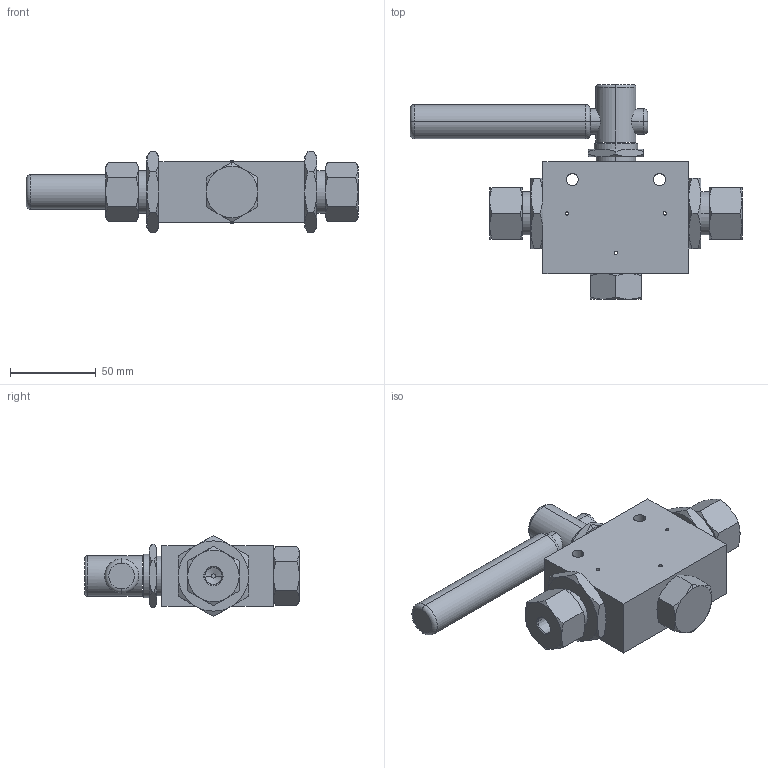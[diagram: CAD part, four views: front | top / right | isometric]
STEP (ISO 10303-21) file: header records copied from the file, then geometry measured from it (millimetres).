
FILE_DESCRIPTION (( 'STEP AP203' ), '1' );
FILE_NAME ('BVN05S02-2-90.STEP', '2022-04-07T10:05:38', ( '' ), ( '' ), 'SwSTEP 2.0', 'SolidWorks 2020', '' );
FILE_SCHEMA (( 'CONFIG_CONTROL_DESIGN' ));
Length unit declared in the file: millimetre
Products named in the file (1): BVN05S02-2-90
Bounding box: 193.5 x 125 x 47.34 mm (x, y, z)
Volume: 310044.5 mm3; surface area: 46784.3 mm2
Topology: 1 solids, 1 shells, 198 faces, 442 edges, 260 vertices
Faces by surface type: cone 90, plane 64, cylinder 36, torus 8
Entity records: 6371 total; most frequent: CARTESIAN_POINT 2057, ORIENTED_EDGE 884, DIRECTION 868, EDGE_CURVE 442, AXIS2_PLACEMENT_3D 379, VERTEX_POINT 260, EDGE_LOOP 226, ADVANCED_FACE 198
